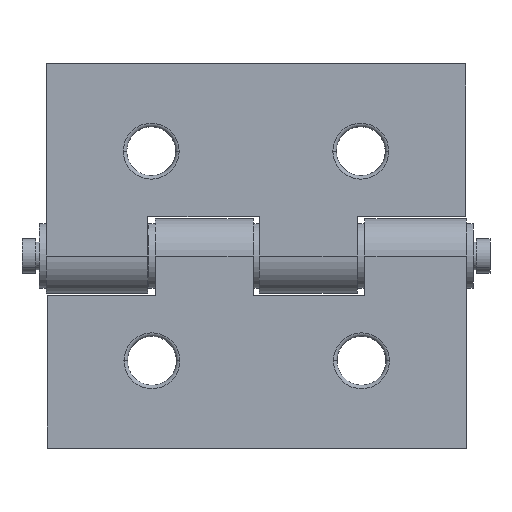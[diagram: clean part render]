
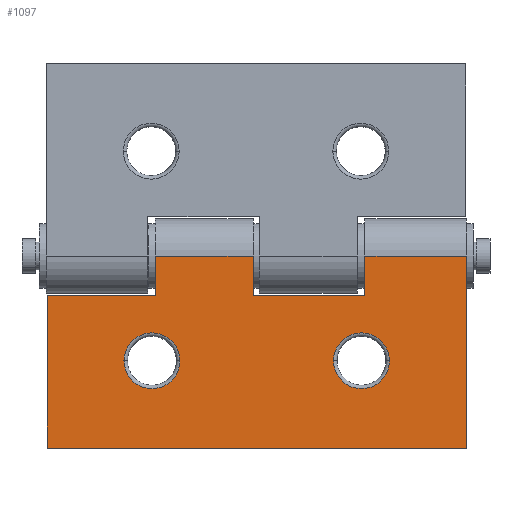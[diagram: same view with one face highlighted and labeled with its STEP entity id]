
A CAD part, left-side view. The second image highlights one B-rep face of the part: STEP entity #1097.
In plain terms, the highlighted planar face has unit normal (-1, 0, 0).
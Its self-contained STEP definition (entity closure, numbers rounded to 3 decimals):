
#113 = VECTOR ( 'NONE', #2319, 1000. ) ;
#153 = VERTEX_POINT ( 'NONE', #3064 ) ;
#168 = EDGE_CURVE ( 'NONE', #648, #1995, #1231, .T. ) ;
#174 = CIRCLE ( 'NONE', #2878, 4. ) ;
#206 = VECTOR ( 'NONE', #2862, 1000. ) ;
#251 = DIRECTION ( 'NONE',  ( 0., 1., 0. ) ) ;
#256 = VERTEX_POINT ( 'NONE', #869 ) ;
#269 = VECTOR ( 'NONE', #1644, 1000. ) ;
#271 = VERTEX_POINT ( 'NONE', #2347 ) ;
#278 = EDGE_CURVE ( 'NONE', #808, #153, #1825, .T. ) ;
#279 = FACE_BOUND ( 'NONE', #343, .T. ) ;
#314 = DIRECTION ( 'NONE',  ( 0., 1., 0. ) ) ;
#322 = EDGE_LOOP ( 'NONE', ( #1363, #3113, #2797, #1078, #2532, #720, #3044, #2704, #3226, #2097 ) ) ;
#326 = DIRECTION ( 'NONE',  ( 0., 1., 0. ) ) ;
#334 = CARTESIAN_POINT ( 'NONE',  ( -5.35, 0.4, -5.65 ) ) ;
#340 = CARTESIAN_POINT ( 'NONE',  ( -5.35, 0.4, -5.65 ) ) ;
#341 = DIRECTION ( 'NONE',  ( 1., 0., 0. ) ) ;
#343 = EDGE_LOOP ( 'NONE', ( #3259, #761 ) ) ;
#510 = EDGE_CURVE ( 'NONE', #1388, #153, #2175, .T. ) ;
#521 = EDGE_LOOP ( 'NONE', ( #2997, #2547 ) ) ;
#563 = LINE ( 'NONE', #2597, #1227 ) ;
#579 = CARTESIAN_POINT ( 'NONE',  ( -5.35, -30.1, 0. ) ) ;
#648 = VERTEX_POINT ( 'NONE', #2275 ) ;
#690 = CARTESIAN_POINT ( 'NONE',  ( -5.35, -30.1, 0. ) ) ;
#720 = ORIENTED_EDGE ( 'NONE', *, *, #3273, .T. ) ;
#741 = DIRECTION ( 'NONE',  ( 0., 1., 0. ) ) ;
#761 = ORIENTED_EDGE ( 'NONE', *, *, #2449, .T. ) ;
#765 = EDGE_CURVE ( 'NONE', #1062, #3084, #1267, .T. ) ;
#794 = PLANE ( 'NONE',  #2236 ) ;
#797 = EDGE_CURVE ( 'NONE', #256, #1577, #3076, .T. ) ;
#799 = CARTESIAN_POINT ( 'NONE',  ( -5.35, 29.9, -27.5 ) ) ;
#801 = CARTESIAN_POINT ( 'NONE',  ( -5.35, -15.1, -15. ) ) ;
#808 = VERTEX_POINT ( 'NONE', #799 ) ;
#839 = DIRECTION ( 'NONE',  ( 0., 0., -1. ) ) ;
#869 = CARTESIAN_POINT ( 'NONE',  ( -5.35, -30.1, -27.5 ) ) ;
#873 = VERTEX_POINT ( 'NONE', #1439 ) ;
#878 = VERTEX_POINT ( 'NONE', #1169 ) ;
#937 = CARTESIAN_POINT ( 'NONE',  ( -5.35, 29.9, -5.65 ) ) ;
#1026 = LINE ( 'NONE', #3048, #1769 ) ;
#1062 = VERTEX_POINT ( 'NONE', #2254 ) ;
#1075 = AXIS2_PLACEMENT_3D ( 'NONE', #2987, #2028, #2278 ) ;
#1078 = ORIENTED_EDGE ( 'NONE', *, *, #1493, .T. ) ;
#1097 = ADVANCED_FACE ( 'NONE', ( #279, #2562, #1817 ), #794, .F. ) ;
#1113 = CARTESIAN_POINT ( 'NONE',  ( -5.35, 14.4, -5.65 ) ) ;
#1169 = CARTESIAN_POINT ( 'NONE',  ( -5.35, 0.4, 0. ) ) ;
#1206 = EDGE_CURVE ( 'NONE', #1577, #271, #563, .T. ) ;
#1217 = AXIS2_PLACEMENT_3D ( 'NONE', #1868, #1341, #2569 ) ;
#1227 = VECTOR ( 'NONE', #326, 1000. ) ;
#1231 = LINE ( 'NONE', #2247, #1857 ) ;
#1267 = CIRCLE ( 'NONE', #1217, 4. ) ;
#1277 = DIRECTION ( 'NONE',  ( 1., 0., 0. ) ) ;
#1296 = DIRECTION ( 'NONE',  ( 0., -1., 0. ) ) ;
#1300 = LINE ( 'NONE', #3068, #113 ) ;
#1341 = DIRECTION ( 'NONE',  ( 1., 0., 0. ) ) ;
#1363 = ORIENTED_EDGE ( 'NONE', *, *, #1206, .T. ) ;
#1383 = DIRECTION ( 'NONE',  ( 1., 0., 0. ) ) ;
#1388 = VERTEX_POINT ( 'NONE', #1113 ) ;
#1439 = CARTESIAN_POINT ( 'NONE',  ( -5.35, 14.4, 0. ) ) ;
#1493 = EDGE_CURVE ( 'NONE', #1995, #878, #2132, .T. ) ;
#1504 = CIRCLE ( 'NONE', #1075, 4. ) ;
#1570 = VECTOR ( 'NONE', #3079, 1000. ) ;
#1577 = VERTEX_POINT ( 'NONE', #579 ) ;
#1644 = DIRECTION ( 'NONE',  ( 0., 0., 1. ) ) ;
#1661 = DIRECTION ( 'NONE',  ( 0., -1., 0. ) ) ;
#1662 = CARTESIAN_POINT ( 'NONE',  ( -5.35, 10.9, -15. ) ) ;
#1769 = VECTOR ( 'NONE', #314, 1000. ) ;
#1772 = VERTEX_POINT ( 'NONE', #2658 ) ;
#1783 = EDGE_CURVE ( 'NONE', #3084, #1062, #3276, .T. ) ;
#1817 = FACE_OUTER_BOUND ( 'NONE', #322, .T. ) ;
#1825 = LINE ( 'NONE', #1840, #1570 ) ;
#1833 = EDGE_CURVE ( 'NONE', #878, #873, #2723, .T. ) ;
#1840 = CARTESIAN_POINT ( 'NONE',  ( -5.35, 29.9, -27.5 ) ) ;
#1857 = VECTOR ( 'NONE', #251, 1000. ) ;
#1868 = CARTESIAN_POINT ( 'NONE',  ( -5.35, 14.9, -15. ) ) ;
#1960 = DIRECTION ( 'NONE',  ( 0., 1., 0. ) ) ;
#1995 = VERTEX_POINT ( 'NONE', #334 ) ;
#2028 = DIRECTION ( 'NONE',  ( 1., 0., 0. ) ) ;
#2097 = ORIENTED_EDGE ( 'NONE', *, *, #797, .T. ) ;
#2100 = CARTESIAN_POINT ( 'NONE',  ( -5.35, -30.1, -27.5 ) ) ;
#2109 = CARTESIAN_POINT ( 'NONE',  ( -5.35, -15.6, -5.65 ) ) ;
#2113 = VECTOR ( 'NONE', #741, 1000. ) ;
#2132 = LINE ( 'NONE', #340, #269 ) ;
#2149 = EDGE_CURVE ( 'NONE', #271, #648, #2938, .T. ) ;
#2175 = LINE ( 'NONE', #937, #2477 ) ;
#2236 = AXIS2_PLACEMENT_3D ( 'NONE', #2100, #341, #2368 ) ;
#2247 = CARTESIAN_POINT ( 'NONE',  ( -5.35, 0.4, -5.65 ) ) ;
#2254 = CARTESIAN_POINT ( 'NONE',  ( -5.35, 18.9, -15. ) ) ;
#2275 = CARTESIAN_POINT ( 'NONE',  ( -5.35, -15.6, -5.65 ) ) ;
#2278 = DIRECTION ( 'NONE',  ( 0., -1., 0. ) ) ;
#2319 = DIRECTION ( 'NONE',  ( 0., 0., -1. ) ) ;
#2347 = CARTESIAN_POINT ( 'NONE',  ( -5.35, -15.6, 0. ) ) ;
#2368 = DIRECTION ( 'NONE',  ( 0., -1., 0. ) ) ;
#2393 = EDGE_CURVE ( 'NONE', #1772, #3007, #1504, .T. ) ;
#2449 = EDGE_CURVE ( 'NONE', #3007, #1772, #174, .T. ) ;
#2477 = VECTOR ( 'NONE', #1960, 1000. ) ;
#2495 = EDGE_CURVE ( 'NONE', #256, #808, #1026, .T. ) ;
#2532 = ORIENTED_EDGE ( 'NONE', *, *, #1833, .T. ) ;
#2547 = ORIENTED_EDGE ( 'NONE', *, *, #765, .T. ) ;
#2562 = FACE_BOUND ( 'NONE', #521, .T. ) ;
#2569 = DIRECTION ( 'NONE',  ( 0., -1., 0. ) ) ;
#2589 = VECTOR ( 'NONE', #839, 1000. ) ;
#2597 = CARTESIAN_POINT ( 'NONE',  ( -5.35, -30.1, 0. ) ) ;
#2615 = CARTESIAN_POINT ( 'NONE',  ( -5.35, -11.1, -15. ) ) ;
#2641 = CARTESIAN_POINT ( 'NONE',  ( -5.35, 14.9, -15. ) ) ;
#2658 = CARTESIAN_POINT ( 'NONE',  ( -5.35, -19.1, -15. ) ) ;
#2704 = ORIENTED_EDGE ( 'NONE', *, *, #278, .F. ) ;
#2723 = LINE ( 'NONE', #690, #2113 ) ;
#2797 = ORIENTED_EDGE ( 'NONE', *, *, #168, .T. ) ;
#2848 = CARTESIAN_POINT ( 'NONE',  ( -5.35, -30.1, -27.5 ) ) ;
#2862 = DIRECTION ( 'NONE',  ( 0., 0., 1. ) ) ;
#2878 = AXIS2_PLACEMENT_3D ( 'NONE', #801, #1277, #1296 ) ;
#2938 = LINE ( 'NONE', #2109, #2589 ) ;
#2958 = AXIS2_PLACEMENT_3D ( 'NONE', #2641, #1383, #1661 ) ;
#2987 = CARTESIAN_POINT ( 'NONE',  ( -5.35, -15.1, -15. ) ) ;
#2997 = ORIENTED_EDGE ( 'NONE', *, *, #1783, .T. ) ;
#3007 = VERTEX_POINT ( 'NONE', #2615 ) ;
#3044 = ORIENTED_EDGE ( 'NONE', *, *, #510, .T. ) ;
#3048 = CARTESIAN_POINT ( 'NONE',  ( -5.35, -30.1, -27.5 ) ) ;
#3064 = CARTESIAN_POINT ( 'NONE',  ( -5.35, 29.9, -5.65 ) ) ;
#3068 = CARTESIAN_POINT ( 'NONE',  ( -5.35, 14.4, 5.35 ) ) ;
#3076 = LINE ( 'NONE', #2848, #206 ) ;
#3079 = DIRECTION ( 'NONE',  ( 0., 0., 1. ) ) ;
#3084 = VERTEX_POINT ( 'NONE', #1662 ) ;
#3113 = ORIENTED_EDGE ( 'NONE', *, *, #2149, .T. ) ;
#3226 = ORIENTED_EDGE ( 'NONE', *, *, #2495, .F. ) ;
#3259 = ORIENTED_EDGE ( 'NONE', *, *, #2393, .T. ) ;
#3273 = EDGE_CURVE ( 'NONE', #873, #1388, #1300, .T. ) ;
#3276 = CIRCLE ( 'NONE', #2958, 4. ) ;
